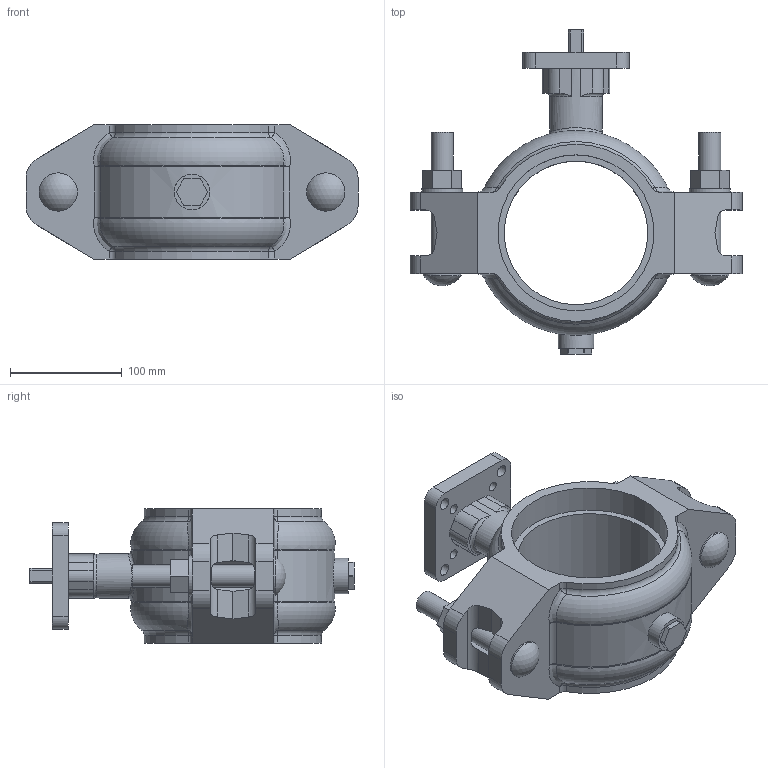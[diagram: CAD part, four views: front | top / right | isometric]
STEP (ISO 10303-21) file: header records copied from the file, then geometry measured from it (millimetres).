
FILE_DESCRIPTION(/* description */ ('VIC SS IR VALVE BUTTERFLY BARE SERIES 124 (OGS)','CAx-IF Rec.Pracs.---Representation and Presentation of Product Manufacturing Information (PMI)---4.0---2014-10-13'),/* implementation_level */ '2;1');
FILE_NAME(/* name */ 'C:\IR-124\step\Victaulic_SS-OGS_Valve Butterfly Bare_IR_Series 124 (OGS)\Victaulic_SS-OGS_Valve Butterfly Bare_IR_Series 124 (OGS)_05.0 (139.7) (125).stp',/* time_stamp */ '2021-08-02T15:24:25+06:00',/* author */ ('Vjadhav'),/* organization */ ('Victaulic'),/* preprocessor_version */ 'ST-DEVELOPER v17.2',/* originating_system */ 'Autodesk Inventor 2019',/* authorisation */ '');
FILE_SCHEMA (('AP242_MANAGED_MODEL_BASED_3D_ENGINEERING_MIM_LF { 1 0 10303 442 1 1 4 }'));
Length unit declared in the file: inch
Products named in the file (1): 124-05.0 (139.7)
Bounding box: 297.43 x 290.32 x 120.14 mm (x, y, z)
Volume: 2215293 mm3; surface area: 232404.7 mm2
Topology: 1 solids, 1 shells, 202 faces, 528 edges, 342 vertices
Faces by surface type: plane 91, cylinder 69, sphere 18, bspline 12, torus 12
Full cylindrical faces by diameter (mm): 8.788 x4, 10.795 x4, 19.812 x4, 31.75 x1, 34.29 x2, 36.83 x2, 128.588 x1, 139.7 x2
Entity records: 7555 total; most frequent: CARTESIAN_POINT 2133, DIRECTION 1096, ORIENTED_EDGE 1056, EDGE_CURVE 528, AXIS2_PLACEMENT_3D 410, VERTEX_POINT 342, LINE 276, VECTOR 276
